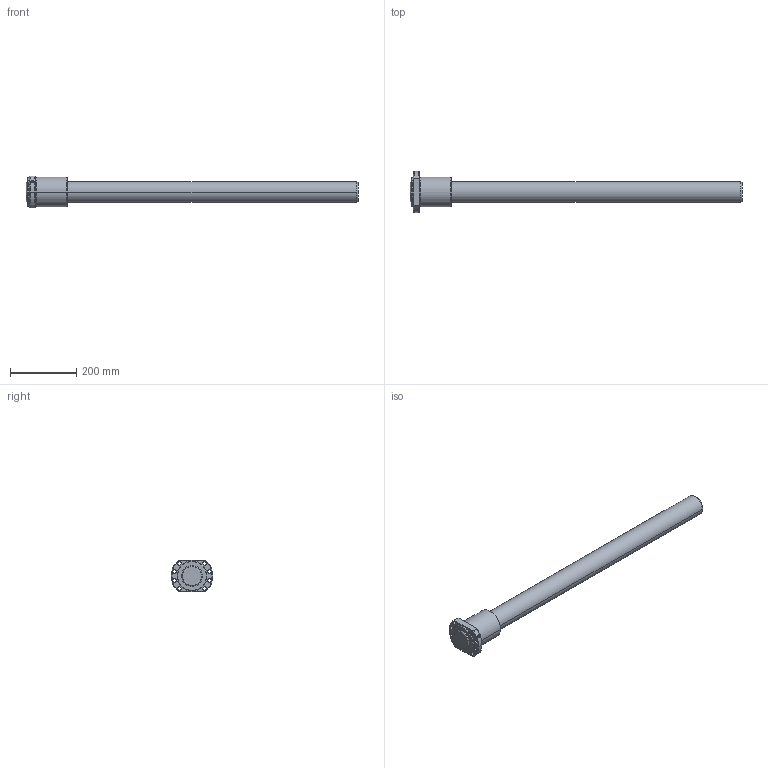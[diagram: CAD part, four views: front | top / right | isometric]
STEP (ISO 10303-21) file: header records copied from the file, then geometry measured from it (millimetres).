
FILE_DESCRIPTION( ( '' ), '1' );
FILE_NAME( 'C:/Users/v3-771-32344/Desktop/EBB STEP/EBB 6310-6 RRNone+1000L C7(871070)-ebb3.stp', '2015-08-27T13:42:14', ( '' ), ( '' ), ' ', ' ', ' ' );
FILE_SCHEMA( ( 'CONFIG_CONTROL_DESIGN' ) );
Length unit declared in the file: millimetre
Products named in the file (2): 1; 2
Bounding box: 1000 x 125 x 95 mm (x, y, z)
Volume: 3558787.3 mm3; surface area: 286166.3 mm2
Topology: 2 solids, 2 shells, 71 faces, 167 edges, 107 vertices
Faces by surface type: cylinder 40, cone 18, plane 13
Entity records: 2315 total; most frequent: CARTESIAN_POINT 497, DIRECTION 394, ORIENTED_EDGE 334, AXIS2_PLACEMENT_3D 167, EDGE_CURVE 167, VERTEX_POINT 107, EDGE_LOOP 98, CIRCLE 94
